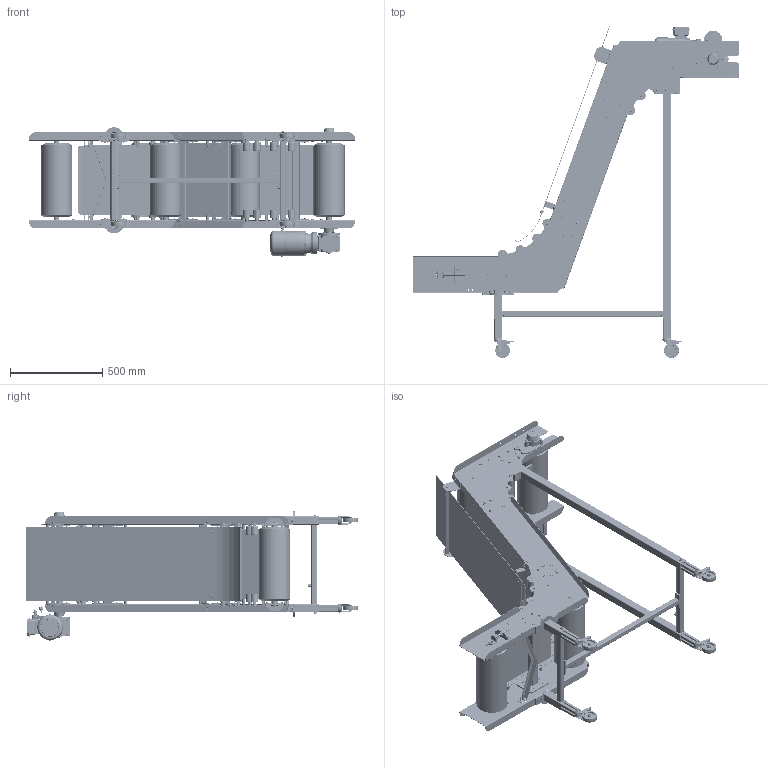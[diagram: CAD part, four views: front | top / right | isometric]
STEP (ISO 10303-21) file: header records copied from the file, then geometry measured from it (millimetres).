
FILE_DESCRIPTION(/* description */ (''),/* implementation_level */ '2;1');
FILE_NAME(/* name */ 'beltconveyor_a013_w400_h1765.stp',/* time_stamp */ '2024-12-15T13:45:21+08:00',/* author */ (''),/* organization */ (''),/* preprocessor_version */ 'ST-DEVELOPER v16.7',/* originating_system */ 'SIEMENS PLM Software NX 12.0',/* authorisation */ '');
FILE_SCHEMA (('AUTOMOTIVE_DESIGN { 1 0 10303 214 3 1 1 1 }'));
Products named in the file (102): H_X2_0159_X0__S_mdel A; Deska spojovac_S_m; CSN 426935 - 40x40x2-414; 83434-COM; 83225-COM; 50027-COM; 83266-COM; 83622-COM; 821356L-COM; Trubka 168,3; Celo; H_X2_0159_X0__S_mdel C; 50027-APE-COM; 83622-COM_2; 821356L-COM_2; 83434-COM_2; 83225-COM_2; 83187-COM; Celo Silon; Trubka 168; H_X2_0159_X0__S_mdel B; Lo_X2_017E_X0_isko  oboustrann_S_i zakryt_S_m ZKL 6306A-2Z; Pojistn_S_} krou_X2_017E_X0_ek vn_X2_011B_X0_j_X2_0161_X0__S_m 30; Zatitovka M12; CSN 425541 - L35x35x4-40 - A; CSN 426935 - 45x45x2-130; Deska 01; Deska 04; CSN 426935 - 30x30x2-830; AL 40x40; _X2_0160_X0_roub z_S_apustn_S_} M10 x  20; Kolo 80 -108 Oto_X2_010D_X0_n_S_i brzda Kolo 80 -108 Oto_X2_010D_X0_n
_S_i brzda; Deska 03; CSN 426935 - 40x40x2-430; CSN 426935 - 45x45x2-1126; Zemnici kol_S_mk Pes M8 Zemnici kolik PES_M8; Deska 02; B01; B03_MIR; P01 ...
Assembly tree (445 placements, depth 4):
  beltconveyor_a013_w400_h1765
    Konzolka  x2
    Podlo_X2_017E_X0_ka oby_X2_010D_X0_ejn_S_a B 8,4  x30
    _X2_0160_X0_roub 6HR M8 x 16  x31
    Rolna  x16
      Lo_X2_017E_X0_isko  oboustrann_S_i zakryt_S_m ZKL 6002A-2Z
      Pojistn_S_} krou_X2_017E_X0_ek vn_X2_011B_X0_j_X2_0161_X0__S_m 15
      Osa rolny
      Rolna26561
    Doraz  x2
    Podlo_X2_017E_X0_ka Plo_X2_0161_X0_n_S_a 8,4
    _X2_0160_X0_roub v_S_alcov_S_} M6 x 10  x4
    Nohy
      Podlo_X2_017E_X0_ka oby_X2_010D_X0_ejn_S_a B 8,4  x8
      Kluzna matice M8 Dr_S_a_X2_017E_X0_kov_S_a matice AL M8  x4
      _X2_0160_X0_roub v_S_alcov_S_} M8 x 12  x4
      _X2_0160_X0_roub 6HR M8 x 16  x4
      Noha B
        Deska 02  x2
        Zemnici kol_S_mk Pes M8 Zemnici kolik PES_M8
        CSN 426935 - 45x45x2-1126  x2
        CSN 426935 - 40x40x2-430
        Deska 03
      Noha oto_X2_010D_X0_na pojezdova  x4
        Kolo 80 -108 Oto_X2_010D_X0_n_S_i brzda Kolo 80 -108 Oto_X2_010D_X0_n
_S_i brzda
        _X2_0160_X0_roub z_S_apustn_S_} M10 x  20
        AL 40x40
      Trno_X2_017E_X0_
        CSN 426935 - 30x30x2-830
        Deska 04  x2
      Noha A
        Deska 01  x2
        CSN 426935 - 45x45x2-130  x2
        Deska 03
        CSN 426935 - 40x40x2-430
    Pas
    Matice M10
    mmot_MIR
    Podlo_X2_017E_X0_ka oby_X2_010D_X0_ejn_S_a B 10,5
    Cep r_S_azu
    Plexy zastena
      CSN 02 1726 8,4  x6
      Plexy
      Oska
      _X2_0160_X0_roub pulkulaty M8 x 16  x4
      Samojistn_S_a matice T_X2_0159_X0__S_mda vlastnost_S_m 5 a 10 - Metri
ck_S_} M8 x 1.25 Typ kovu  x2
      Plech nab_X2_011B_X0_h
    Dopravn_S_mk Sestava B
      Rozp_X2_011B_X0_rka podpory  x16
      _X2_0160_X0_roub 6HR M6 x 35  x20
      _X2_0160_X0_roub 6HR M8 x 16  x52
      _X2_0160_X0_roub v_S_alcov_S_} M10 x 25  x6
      Deska lo_X2_017E_X0_iska  x2
      Matice M12  x4
      _X2_0160_X0_roub pulkulaty M8 x 12  x8
      Podlo_X2_017E_X0_ka oby_X2_010D_X0_ejn_S_a B 10,5  x8
      CSN 02 1726 8,4  x48
      _X2_0160_X0_roub pulkulaty M8 x 16  x4
      _X2_0160_X0_roub 6HR M10 x 20  x4
      Podlo_X2_017E_X0_ka oby_X2_010D_X0_ejn_S_a B 8,4  x14
Bounding box: 1764.05 x 1796.52 x 701.38 mm (x, y, z)
Volume: 29653975.7 mm3; surface area: 12138165.8 mm2
Topology: 583 solids, 594 shells, 13692 faces, 35825 edges, 22256 vertices
Faces by surface type: plane 4670, cylinder 4432, cone 1815, torus 1258, bspline 596, sphere 552, extrusion 369
Entity records: 174158 total; most frequent: CARTESIAN_POINT 49287, ORIENTED_EDGE 24730, DIRECTION 24278, EDGE_CURVE 12365, AXIS2_PLACEMENT_3D 8976, VERTEX_POINT 8044, VECTOR 6326, LINE 5957
